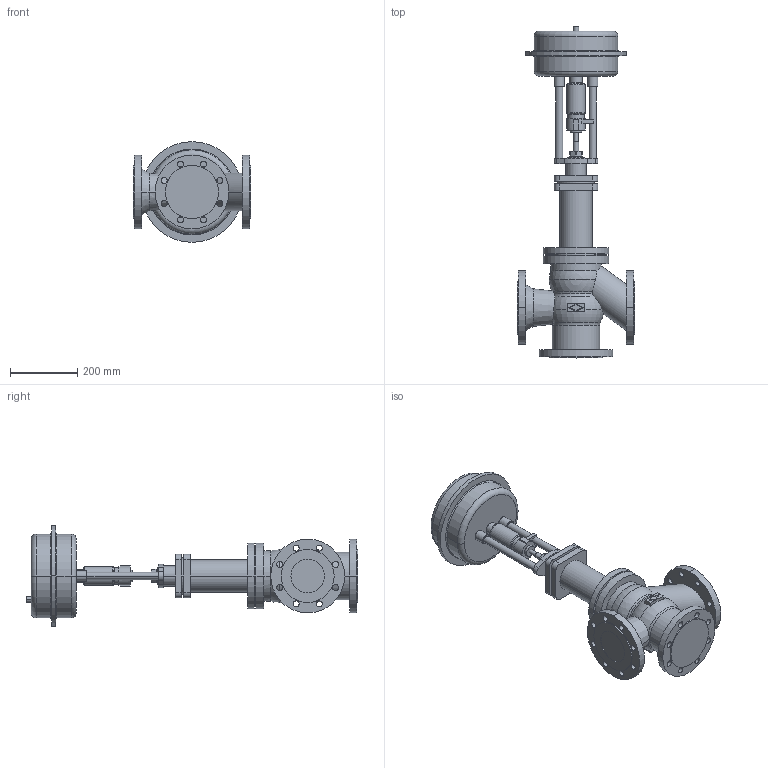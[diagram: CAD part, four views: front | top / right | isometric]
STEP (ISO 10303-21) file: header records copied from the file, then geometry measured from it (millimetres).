
FILE_DESCRIPTION(('OneSpaceDesigner STEP Export'),'2;1');
FILE_NAME('c000000712.stp','2006-09-21T 8:33:11',(''),(''),'OneSpace Designer STEP processor for AP214 (Solid Model)','OneSpace Designer 13.20A 18-Aug-2005 (C) CoCreate Software GmbH','');
FILE_SCHEMA(('AUTOMOTIVE_DESIGN { 1 0 10303 214 1 1 1 1 }'));
Length unit declared in the file: millimetre
Products named in the file (2): 1; 2
Bounding box: 350 x 989.3 x 300 mm (x, y, z)
Volume: 19607076.9 mm3; surface area: 959740.6 mm2
Topology: 2 solids, 2 shells, 265 faces, 666 edges, 435 vertices
Faces by surface type: cylinder 134, plane 93, torus 26, cone 8, sphere 4
Entity records: 7191 total; most frequent: CARTESIAN_POINT 1362, ORIENTED_EDGE 1324, DIRECTION 1052, EDGE_CURVE 662, VERTEX_POINT 435, AXIS2_PLACEMENT_3D 387, EDGE_LOOP 347, VECTOR 278
